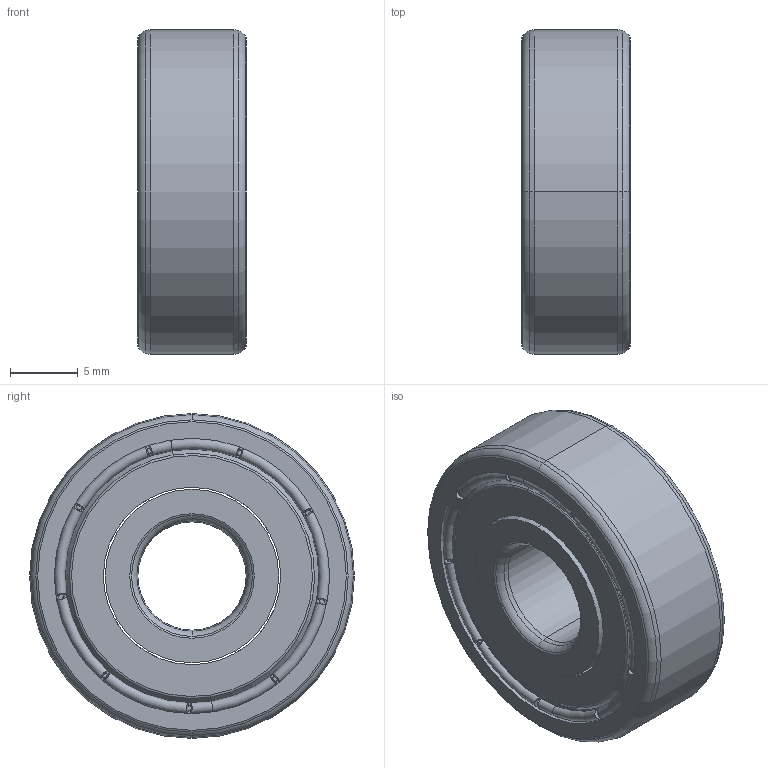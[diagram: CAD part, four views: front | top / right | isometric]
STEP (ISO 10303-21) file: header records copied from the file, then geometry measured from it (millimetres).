
FILE_DESCRIPTION((''),'2;1');
FILE_NAME('628ZZ-EA030','2025-12-19T16:36:46',('qinghui.yi'),(''),'CREO PARAMETRIC BY PTC INC, 2019164','CREO PARAMETRIC BY PTC INC, 2019164','');
FILE_SCHEMA(('CONFIG_CONTROL_DESIGN','SHAPE_APPEARANCE_LAYERS_GROUPS'));
Length unit declared in the file: millimetre
Products named in the file (1): 628ZZ-EA030
Bounding box: 8 x 24 x 24 mm (x, y, z)
Volume: 1884.5 mm3; surface area: 3180 mm2
Topology: 2 solids, 2 shells, 192 faces, 483 edges, 309 vertices
Faces by surface type: cylinder 72, plane 54, torus 38, cone 28
Entity records: 6813 total; most frequent: CARTESIAN_POINT 2069, ORIENTED_EDGE 966, DIRECTION 872, EDGE_CURVE 483, AXIS2_PLACEMENT_3D 368, VERTEX_POINT 309, EDGE_LOOP 246, COLOUR_RGB 196
